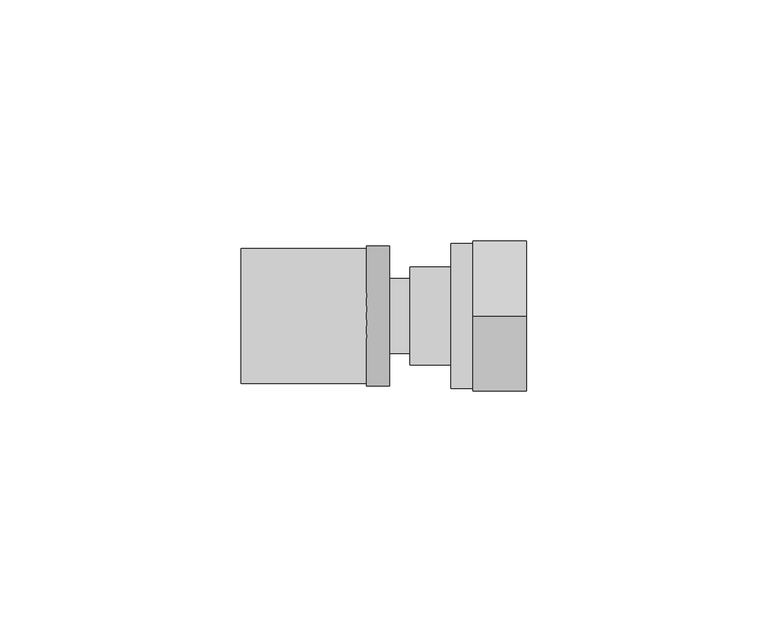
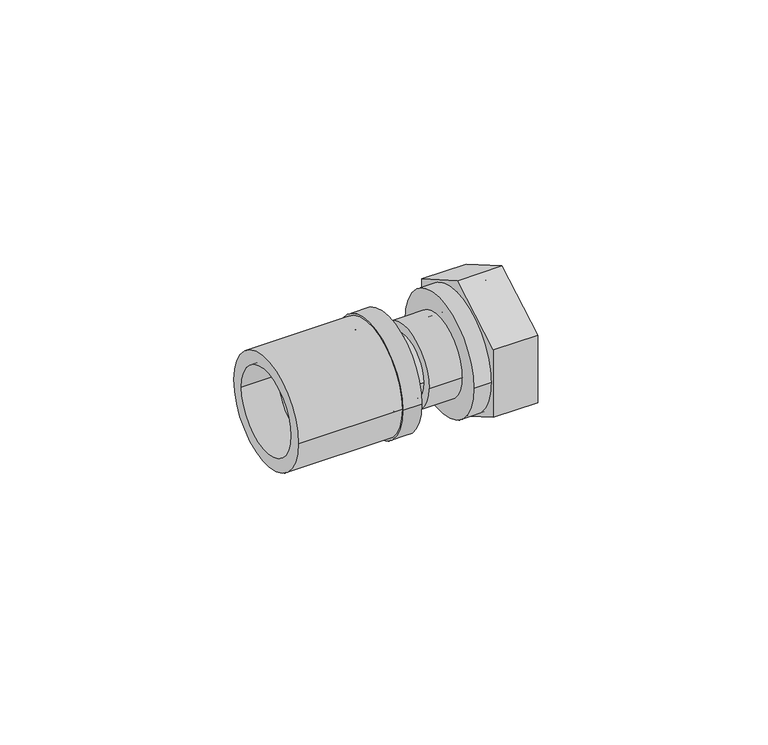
"""IFC4 building model written with IfcOpenShell, lengths in millimetres: pipe fitting geometry, FASTLOC_Adapter with union nut EX+ : FSL A union nut EX+ AT."""

import ifcopenshell
import ifcopenshell.guid

model = None  # the IFC model being written
_history = None  # IfcOwnerHistory: only IFC2X3 demands one
_inside = {}  # id of a spatial element -> (the spatial element, [elements in it])
_under = {}  # id of a project, library or spatial element -> (it, [spatial elements below it])
_declared = {}  # id of a project -> (the project, [libraries it declares])
_typed = {}  # id of a type object -> (the type object, [elements of that type])
_made_of = {}  # id of a material, layer set ... -> (it, [elements and type objects made of it])


def new_model(schema):
    """Start an empty IFC model of exactly this schema.

    Asked for "IFC4X3", IfcOpenShell would pick the latest addendum, in which some entities
    have other attributes; the version numbers below select the first issue.
    IFC2X3 requires an IfcOwnerHistory on every rooted entity: one is made here for all.
    """
    global model, _history
    if schema == "IFC4X3":
        model = ifcopenshell.file(schema_version=(4, 3, 0, 0))
    else:
        model = ifcopenshell.file(schema=schema)
    _inside.clear()
    _under.clear()
    _declared.clear()
    _typed.clear()
    _made_of.clear()
    _history = None
    if model.schema == "IFC2X3":
        org = make("IfcOrganization", Name="unknown")
        user = make(
            "IfcPersonAndOrganization",
            ThePerson=make("IfcPerson", FamilyName="unknown"),
            TheOrganization=org,
        )
        app = make(
            "IfcApplication",
            ApplicationDeveloper=org,
            Version="unknown",
            ApplicationFullName="unknown",
            ApplicationIdentifier="unknown",
        )
        _history = make(
            "IfcOwnerHistory",
            OwningUser=user,
            OwningApplication=app,
            ChangeAction="ADDED",
            CreationDate=0,
        )
    return model


def make(cls, **values):
    """One entity of the class cls with the attributes given. An attribute that is None is left unset."""
    return model.create_entity(
        cls, **{name: value for name, value in values.items() if value is not None}
    )


def rooted(cls, **values):
    """An entity with a GlobalId (a new one), such as an element, a storey or a relation."""
    return make(cls, GlobalId=ifcopenshell.guid.new(), OwnerHistory=_history, **values)


def si_unit(unit_type, name, prefix=None):
    """IfcSIUnit, for example si_unit("LENGTHUNIT", "METRE", prefix="MILLI")."""
    return make("IfcSIUnit", UnitType=unit_type, Prefix=prefix, Name=name)


def assignment(units):
    """IfcUnitAssignment: the units of a project."""
    return None if units is None else make("IfcUnitAssignment", Units=units)


def point(xyz):
    """IfcCartesianPoint."""
    return None if xyz is None else make("IfcCartesianPoint", Coordinates=xyz)


def direction(xyz):
    """IfcDirection."""
    return None if xyz is None else make("IfcDirection", DirectionRatios=xyz)


def frame(location, z_axis=None, x_axis=None):
    """IfcAxis2Placement3D, a coordinate frame: its origin and axes. An axis left out is left unset."""
    return make(
        "IfcAxis2Placement3D",
        Location=point(location),
        Axis=direction(z_axis),
        RefDirection=direction(x_axis),
    )


def frame_2d(location, x_axis=None):
    """IfcAxis2Placement2D, a coordinate frame in the plane: its origin and x axis."""
    return make(
        "IfcAxis2Placement2D", Location=point(location), RefDirection=direction(x_axis)
    )


def origin():
    """The frame at (0, 0, 0) with its axes left unset."""
    return frame((0.0, 0.0, 0.0))


def origin_2d():
    """The frame at (0, 0) in the plane with its x axis left unset."""
    return frame_2d((0.0, 0.0))


def place(relative_to, where):
    """IfcLocalPlacement: puts the frame where relative to a parent placement (None: the world)."""
    return make(
        "IfcLocalPlacement", PlacementRelTo=relative_to, RelativePlacement=where
    )


def context(
    kind, dimensions, precision=None, world=None, true_north=None, identifier=None
):
    """IfcGeometricRepresentationContext, for example the 3D "Model" context."""
    return make(
        "IfcGeometricRepresentationContext",
        ContextIdentifier=identifier,
        ContextType=kind,
        CoordinateSpaceDimension=dimensions,
        Precision=precision,
        WorldCoordinateSystem=world,
        TrueNorth=true_north,
    )


def project(units=None, contexts=None):
    """IfcProject with its units and contexts."""
    return rooted(
        "IfcProject",
        Name="project",
        RepresentationContexts=contexts,
        UnitsInContext=assignment(units),
    )


def spatial(cls, under=None, at=None, **own):
    """A site, building, storey or space (cls), placed at a placement, below another one or the project."""
    s = rooted(cls, ObjectPlacement=at, **own)
    if under is not None:
        _under.setdefault(under.id(), (under, []))[1].append(s)
    return s


def polyline(points):
    """IfcPolyline through the points."""
    return make("IfcPolyline", Points=[point(p) for p in points])


def circle_curve(where, radius):
    """IfcCircle in the frame where."""
    return make("IfcCircle", Position=where, Radius=radius)


def trimmed(basis, trim1, trim2, sense, master):
    """IfcTrimmedCurve: the piece of a basis curve between two trims."""
    return make(
        "IfcTrimmedCurve",
        BasisCurve=basis,
        Trim1=trim1,
        Trim2=trim2,
        SenseAgreement=sense,
        MasterRepresentation=master,
    )


def segment(curve, same_sense, transition):
    """IfcCompositeCurveSegment."""
    return make(
        "IfcCompositeCurveSegment",
        Transition=transition,
        SameSense=same_sense,
        ParentCurve=curve,
    )


def composite_curve(segments, self_intersect=None):
    """IfcCompositeCurve: segments joined end to end."""
    return make("IfcCompositeCurve", Segments=segments, SelfIntersect=self_intersect)


def outline(outer, holes=None, kind="AREA"):
    """IfcArbitraryClosedProfileDef: a profile drawn as a closed curve; with holes, ...WithVoids."""
    if holes is None:
        return make("IfcArbitraryClosedProfileDef", ProfileType=kind, OuterCurve=outer)
    return make(
        "IfcArbitraryProfileDefWithVoids",
        ProfileType=kind,
        OuterCurve=outer,
        InnerCurves=holes,
    )


def extrude(swept, where, along, depth):
    """IfcExtrudedAreaSolid: the profile swept, set in the frame where, extruded along a direction by depth."""
    return make(
        "IfcExtrudedAreaSolid",
        SweptArea=swept,
        Position=where,
        ExtrudedDirection=direction(along),
        Depth=depth,
    )


def shape(context_of_items, identifier, shape_type, items):
    """IfcShapeRepresentation: the items that make up one representation, for example the "Body"."""
    return make(
        "IfcShapeRepresentation",
        ContextOfItems=context_of_items,
        RepresentationIdentifier=identifier,
        RepresentationType=shape_type,
        Items=items,
    )


def source(mapping_origin, context_of_items, identifier, shape_type, items):
    """IfcRepresentationMap: a shape defined once, which mapped items show again and again."""
    return make(
        "IfcRepresentationMap",
        MappingOrigin=mapping_origin,
        MappedRepresentation=shape(context_of_items, identifier, shape_type, items),
    )


def transform(
    local_origin,
    x_axis=None,
    y_axis=None,
    z_axis=None,
    scale=None,
    scale2=None,
    scale3=None,
    uniform=True,
):
    """IfcCartesianTransformationOperator3D, or its non-uniform kind. x_axis, y_axis, z_axis: its Axis1, 2, 3."""
    if uniform:
        return make(
            "IfcCartesianTransformationOperator3D",
            Axis1=direction(x_axis),
            Axis2=direction(y_axis),
            LocalOrigin=point(local_origin),
            Scale=scale,
            Axis3=direction(z_axis),
        )
    return make(
        "IfcCartesianTransformationOperator3DnonUniform",
        Axis1=direction(x_axis),
        Axis2=direction(y_axis),
        LocalOrigin=point(local_origin),
        Scale=scale,
        Axis3=direction(z_axis),
        Scale2=scale2,
        Scale3=scale3,
    )


def mapped(mapping_source, mapping_target):
    """IfcMappedItem: shows the shape of a source again, moved by a transform."""
    return make(
        "IfcMappedItem", MappingSource=mapping_source, MappingTarget=mapping_target
    )


def made_of(thing, what):
    """Note that an element or type object is made of a material, layer set ...; save() writes the relation."""
    if what is not None:
        _made_of.setdefault(what.id(), (what, []))[1].append(thing)
    return thing


def element(
    cls,
    number,
    at=None,
    inside=None,
    cuts=None,
    type_object=None,
    material=None,
    context=None,
    identifier="Body",
    shape_type=None,
    held_by="IfcProductDefinitionShape",
    body=None,
    shapes=None,
    **own,
):
    """One element of the class cls, such as IfcWall. Its Tag is "e" and its number.

    at: its placement. inside: the storey or other place that contains it. cuts: it is an
    opening in that element (IfcRelVoidsElement). A single representation is given by context,
    identifier, shape_type and body (its items); several are given by shapes. held_by: the class
    of the entity that holds the representations. save() writes the other relations.
    """
    e = rooted(cls, Tag="e%d" % number, ObjectPlacement=at, **own)
    if body is not None:
        shapes = [shape(context, identifier, shape_type, body)]
    if shapes is not None:
        e.Representation = make(held_by, Representations=shapes)
    if inside is not None:
        _inside.setdefault(inside.id(), (inside, []))[1].append(e)
    if cuts is not None:
        rooted(
            "IfcRelVoidsElement", RelatingBuildingElement=cuts, RelatedOpeningElement=e
        )
    if type_object is not None:
        _typed.setdefault(type_object.id(), (type_object, []))[1].append(e)
    return made_of(e, material)


def aggregate(whole, parts):
    """IfcRelAggregates: a whole, such as a stair, and the parts it consists of."""
    return rooted("IfcRelAggregates", RelatingObject=whole, RelatedObjects=parts)


def save(model, path):
    """Write the relations noted so far, then the file.

    IfcRelAggregates (storeys below a building ...), IfcRelContainedInSpatialStructure (elements
    in a storey), IfcRelDefinesByType, IfcRelAssociatesMaterial and IfcRelDeclares: one each for
    every whole, place, type object, material and project.
    """
    for whole, parts in _under.values():
        aggregate(whole, parts)
    for where, things in _inside.values():
        rooted(
            "IfcRelContainedInSpatialStructure",
            RelatedElements=things,
            RelatingStructure=where,
        )
    for kind, things in _typed.values():
        rooted("IfcRelDefinesByType", RelatedObjects=things, RelatingType=kind)
    for what, things in _made_of.values():
        rooted("IfcRelAssociatesMaterial", RelatedObjects=things, RelatingMaterial=what)
    for by, libraries in _declared.values():
        rooted("IfcRelDeclares", RelatingContext=by, RelatedDefinitions=libraries)
    model.write(path)


def plane_surface(at):
    """IfcPlane: the flat surface through the origin of the frame at, square to its z axis."""
    return make("IfcPlane", Position=at)


def cylinder_surface(at, radius):
    """IfcCylindricalSurface: all points at the distance radius from the z axis of the frame at."""
    return make("IfcCylindricalSurface", Position=at, Radius=radius)


def revolved_surface(curve, axis_point, axis_direction):
    """IfcSurfaceOfRevolution: the curve turned about the line through axis_point along axis_direction."""
    return make(
        "IfcSurfaceOfRevolution",
        SweptCurve=make("IfcArbitraryOpenProfileDef", ProfileType="CURVE", Curve=curve),
        AxisPosition=make("IfcAxis1Placement", Location=point(axis_point), Axis=direction(axis_direction)),
    )


def advanced_brep(points, edges, surfaces, faces):
    """IfcAdvancedBrep: a solid bounded by faces that lie on surfaces and meet in shared edges.

    An edge is (start, end): straight between two places in points (the first is 0);
    or (start, end, curve); or (start, end, curve, False) where it runs against its curve.
    A face is (place in surfaces, loops), or (place, loops, False) where it looks against
    its surface's normal. A loop lists edges by number (the first is 1), with a minus sign
    where the edge is run from its end to its start. The first loop is the outer one.
    """
    corners = [point(p) for p in points]
    vertices = [make("IfcVertexPoint", VertexGeometry=c) for c in corners]
    made = []
    for start, end, *more in edges:
        made.append(
            make(
                "IfcEdgeCurve",
                EdgeStart=vertices[start],
                EdgeEnd=vertices[end],
                EdgeGeometry=more[0] if more else make("IfcPolyline", Points=[corners[start], corners[end]]),
                SameSense=more[1] if len(more) > 1 else True,
            )
        )
    hull = []
    for where, loops, *sense in faces:
        bounds = []
        for j, loop in enumerate(loops):
            ring = [make("IfcOrientedEdge", EdgeElement=made[abs(k) - 1], Orientation=k > 0) for k in loop]
            bounds.append(
                make(
                    "IfcFaceOuterBound" if j == 0 else "IfcFaceBound",
                    Bound=make("IfcEdgeLoop", EdgeList=ring),
                    Orientation=True,
                )
            )
        hull.append(make("IfcAdvancedFace", Bounds=bounds, FaceSurface=surfaces[where], SameSense=sense[0] if sense else True))
    return make("IfcAdvancedBrep", Outer=make("IfcClosedShell", CfsFaces=hull))


def pipe_fitting_c518d98d(model_context):
    return source(origin(), model_context, "Body", "SolidModel", [
        extrude(outline(composite_curve([segment(trimmed(circle_curve(origin_2d(), 14.0), [point((14.0, 0.0))], [point((-14.0, 0.0))], False, "CARTESIAN"), True, "CONTINUOUS"), segment(trimmed(circle_curve(origin_2d(), 14.0), [point((-14.0, 0.0))], [point((14.0, 0.0))], False, "CARTESIAN"), True, "CONTINUOUS")], self_intersect=False), holes=[composite_curve([segment(trimmed(circle_curve(origin_2d(), 10.7), [point((10.7, 0.0))], [point((-10.7, 0.0))], True, "CARTESIAN"), True, "CONTINUOUS"), segment(trimmed(circle_curve(origin_2d(), 10.7), [point((-10.7, 0.0))], [point((10.7, 0.0))], True, "CARTESIAN"), True, "CONTINUOUS")], self_intersect=False)]), frame((-35.0, 0.0, 0.0), z_axis=(1.0, 0.0, 0.0), x_axis=(0.0, 1.0, 0.0)), (0.0, 0.0, 1.0), 26.0),
        advanced_brep(
        [(-9.0, -14.5, 0.0), (-9.0, 14.5, 0.0), (-4.3, 14.5, 0.0), (-4.3, -14.5, 0.0), (-26.0, -11.85, 0.0), (-26.0, 11.85, 0.0), (-9.0, 11.85, 0.0), (-9.0, -11.85, 0.0), (-4.3, -10.15, 0.0), (-4.3, 10.15, 0.0), (-26.0, 10.15, 0.0), (-26.0, -10.15, 0.0)],
        [
            (0, 1, circle_curve(frame((-9.0, 0.0, 0.0), z_axis=(1.0, 0.0, 0.0), x_axis=(0.0, 1.0, 0.0)), 14.5)),
            (1, 2),
            (2, 3, circle_curve(frame((-4.3, 0.0, 0.0), z_axis=(-1.0, 0.0, 0.0), x_axis=(0.0, 1.0, 0.0)), 14.5)),
            (3, 0),
            (4, 5, circle_curve(frame((-26.0, 0.0, 0.0), z_axis=(1.0, 0.0, 0.0), x_axis=(0.0, 1.0, 0.0)), 11.85)),
            (5, 6),
            (6, 7, circle_curve(frame((-9.0, 0.0, 0.0), z_axis=(-1.0, 0.0, 0.0), x_axis=(0.0, 1.0, 0.0)), 11.85)),
            (7, 4),
            (8, 9, circle_curve(frame((-4.3, 0.0, 0.0), z_axis=(1.0, 0.0, 0.0), x_axis=(0.0, 1.0, 0.0)), 10.15)),
            (9, 10),
            (10, 11, circle_curve(frame((-26.0, 0.0, 0.0), z_axis=(-1.0, 0.0, 0.0), x_axis=(0.0, 1.0, 0.0)), 10.15)),
            (11, 8),
            (1, 0, circle_curve(frame((-9.0, 0.0, 0.0), z_axis=(1.0, 0.0, 0.0), x_axis=(0.0, -1.0, 0.0)), 14.5)),
            (3, 2, circle_curve(frame((-4.3, 0.0, 0.0), z_axis=(-1.0, 0.0, 0.0), x_axis=(0.0, -1.0, 0.0)), 14.5)),
            (6, 7, circle_curve(frame((-9.0, 0.0, 0.0), z_axis=(1.0, 0.0, 0.0), x_axis=(0.0, -1.0, 0.0)), 11.85)),
            (5, 4, circle_curve(frame((-26.0, 0.0, 0.0), z_axis=(1.0, 0.0, 0.0), x_axis=(0.0, -1.0, 0.0)), 11.85)),
            (10, 11, circle_curve(frame((-26.0, 0.0, 0.0), z_axis=(1.0, 0.0, 0.0), x_axis=(0.0, -1.0, 0.0)), 10.15)),
            (9, 8, circle_curve(frame((-4.3, 0.0, 0.0), z_axis=(1.0, 0.0, 0.0), x_axis=(0.0, -1.0, 0.0)), 10.15)),
        ],
        [
            cylinder_surface(frame((-4.3, 0.0, 0.0), z_axis=(-1.0, 0.0, 0.0), x_axis=(0.0, 1.0, 0.0)), 14.5),
            cylinder_surface(frame((-4.3, 0.0, 0.0), z_axis=(-1.0, 0.0, 0.0), x_axis=(0.0, 1.0, 0.0)), 11.85),
            revolved_surface(polyline([(-26.0, 10.15, 0.0), (-4.3, 10.15, 0.0)]), (-4.3, 0.0, 0.0), (-1.0, 0.0, 0.0)),
            cylinder_surface(frame((-4.3, 0.0, 0.0), z_axis=(-1.0, 0.0, 0.0), x_axis=(0.0, -1.0, 0.0)), 14.5),
            plane_surface(frame((-9.0, 0.0, 0.0), z_axis=(-1.0, 0.0, 0.0), x_axis=(0.0, -1.0, 0.0))),
            cylinder_surface(frame((-4.3, 0.0, 0.0), z_axis=(-1.0, 0.0, 0.0), x_axis=(0.0, -1.0, 0.0)), 11.85),
            plane_surface(frame((-26.0, 0.0, 0.0), z_axis=(-1.0, 0.0, 0.0), x_axis=(0.0, -1.0, 0.0))),
            revolved_surface(polyline([(-26.0, -10.15, 0.0), (-4.3, -10.15, 0.0)]), (-4.3, 0.0, 0.0), (-1.0, 0.0, 0.0)),
            plane_surface(frame((-4.3, 0.0, 0.0), z_axis=(1.0, 0.0, 0.0), x_axis=(0.0, -1.0, 0.0))),
        ],
        [
            (0, [[1, 2, 3, 4]]),
            (1, [[5, 6, 7, 8]]),
            (2, [[9, 10, 11, 12]]),
            (3, [[13, -4, 14, -2]]),
            (4, [[-13, -1], [15, -7]]),
            (5, [[16, -8, -15, -6]]),
            (6, [[-16, -5], [17, -11]]),
            (7, [[18, -12, -17, -10]]),
            (8, [[-14, -3], [-18, -9]]),
        ],
    ),
        advanced_brep(
        [(-9.0, 7.75, 0.0), (-9.0, -7.75, 0.0), (-26.5, -7.75, 0.0), (-26.5, 7.75, 0.0), (-6.3, 8.8, 0.0), (-6.3, -8.8, 0.0), (-9.0, -8.8, 0.0), (-9.0, 8.8, 0.0), (0.0, 7.75, 0.0), (0.0, -7.75, 0.0), (-6.3, -7.75, 0.0), (-6.3, 7.75, 0.0), (-26.5, 5.75, 0.0), (-26.5, -5.75, 0.0), (0.0, -5.75, 0.0), (0.0, 5.75, 0.0)],
        [
            (0, 1, circle_curve(frame((-9.0, 0.0, 0.0), z_axis=(-1.0, 0.0, 0.0), x_axis=(0.0, -1.0, 0.0)), 7.75)),
            (1, 2),
            (2, 3, circle_curve(frame((-26.5, 0.0, 0.0), z_axis=(1.0, 0.0, 0.0), x_axis=(0.0, -1.0, 0.0)), 7.75)),
            (3, 0),
            (4, 5, circle_curve(frame((-6.3, 0.0, 0.0), z_axis=(-1.0, 0.0, 0.0), x_axis=(0.0, -1.0, 0.0)), 8.8)),
            (5, 6),
            (6, 7, circle_curve(frame((-9.0, 0.0, 0.0), z_axis=(1.0, 0.0, 0.0), x_axis=(0.0, -1.0, 0.0)), 8.8)),
            (7, 4),
            (8, 9, circle_curve(frame((0.0, 0.0, 0.0), z_axis=(-1.0, 0.0, 0.0), x_axis=(0.0, -1.0, 0.0)), 7.75)),
            (9, 10),
            (10, 11, circle_curve(frame((-6.3, 0.0, 0.0), z_axis=(1.0, 0.0, 0.0), x_axis=(0.0, -1.0, 0.0)), 7.75)),
            (11, 8),
            (12, 13, circle_curve(frame((-26.5, 0.0, 0.0), z_axis=(-1.0, 0.0, 0.0), x_axis=(0.0, -1.0, 0.0)), 5.75)),
            (13, 14),
            (14, 15, circle_curve(frame((0.0, 0.0, 0.0), z_axis=(1.0, 0.0, 0.0), x_axis=(0.0, -1.0, 0.0)), 5.75)),
            (15, 12),
            (2, 3, circle_curve(frame((-26.5, 0.0, 0.0), z_axis=(-1.0, 0.0, 0.0), x_axis=(0.0, 1.0, 0.0)), 7.75)),
            (12, 13, circle_curve(frame((-26.5, 0.0, 0.0), z_axis=(1.0, 0.0, 0.0), x_axis=(0.0, 1.0, 0.0)), 5.75)),
            (1, 0, circle_curve(frame((-9.0, 0.0, 0.0), z_axis=(-1.0, 0.0, 0.0), x_axis=(0.0, 1.0, 0.0)), 7.75)),
            (6, 7, circle_curve(frame((-9.0, 0.0, 0.0), z_axis=(-1.0, 0.0, 0.0), x_axis=(0.0, 1.0, 0.0)), 8.8)),
            (5, 4, circle_curve(frame((-6.3, 0.0, 0.0), z_axis=(-1.0, 0.0, 0.0), x_axis=(0.0, 1.0, 0.0)), 8.8)),
            (10, 11, circle_curve(frame((-6.3, 0.0, 0.0), z_axis=(-1.0, 0.0, 0.0), x_axis=(0.0, 1.0, 0.0)), 7.75)),
            (9, 8, circle_curve(frame((0.0, 0.0, 0.0), z_axis=(-1.0, 0.0, 0.0), x_axis=(0.0, 1.0, 0.0)), 7.75)),
            (14, 15, circle_curve(frame((0.0, 0.0, 0.0), z_axis=(-1.0, 0.0, 0.0), x_axis=(0.0, 1.0, 0.0)), 5.75)),
        ],
        [
            cylinder_surface(frame((0.0, 0.0, 0.0), z_axis=(1.0, 0.0, 0.0), x_axis=(0.0, -1.0, 0.0)), 7.75),
            cylinder_surface(frame((0.0, 0.0, 0.0), z_axis=(1.0, 0.0, 0.0), x_axis=(0.0, -1.0, 0.0)), 8.8),
            revolved_surface(polyline([(0.0, -5.75, 0.0), (-26.5, -5.75, 0.0)]), (0.0, 0.0, 0.0), (1.0, 0.0, 0.0)),
            plane_surface(frame((-26.5, 0.0, 0.0), z_axis=(-1.0, 0.0, 0.0), x_axis=(0.0, 1.0, 0.0))),
            cylinder_surface(frame((0.0, 0.0, 0.0), z_axis=(1.0, 0.0, 0.0), x_axis=(0.0, 1.0, 0.0)), 7.75),
            plane_surface(frame((-9.0, 0.0, 0.0), z_axis=(-1.0, 0.0, 0.0), x_axis=(0.0, 1.0, 0.0))),
            cylinder_surface(frame((0.0, 0.0, 0.0), z_axis=(1.0, 0.0, 0.0), x_axis=(0.0, 1.0, 0.0)), 8.8),
            plane_surface(frame((-6.3, 0.0, 0.0), z_axis=(1.0, 0.0, 0.0), x_axis=(0.0, 1.0, 0.0))),
            plane_surface(frame((0.0, 0.0, 0.0), z_axis=(1.0, 0.0, 0.0), x_axis=(0.0, 1.0, 0.0))),
            revolved_surface(polyline([(0.0, 5.75, 0.0), (-26.5, 5.75, 0.0)]), (0.0, 0.0, 0.0), (1.0, 0.0, 0.0)),
        ],
        [
            (0, [[1, 2, 3, 4]]),
            (1, [[5, 6, 7, 8]]),
            (0, [[9, 10, 11, 12]]),
            (2, [[13, 14, 15, 16]]),
            (3, [[17, -3], [18, -13]]),
            (4, [[19, -4, -17, -2]]),
            (5, [[20, -7], [-19, -1]]),
            (6, [[21, -8, -20, -6]]),
            (7, [[-21, -5], [22, -11]]),
            (4, [[23, -12, -22, -10]]),
            (8, [[-23, -9], [24, -15]]),
            (9, [[-18, -16, -24, -14]]),
        ],
    ),
        extrude(outline(polyline([(0.0, -17.8978583), (-15.5, -8.9489292), (-15.5, 8.9489292), (0.0, 17.8978583), (15.5, 8.9489292), (15.5, -8.9489292), (0.0, -17.8978583)]), holes=[composite_curve([segment(trimmed(circle_curve(origin_2d(), 12.0), [point((-12.0, 0.0))], [point((12.0, 0.0))], True, "CARTESIAN"), True, "CONTINUOUS"), segment(trimmed(circle_curve(origin_2d(), 12.0), [point((12.0, 0.0))], [point((-12.0, 0.0))], True, "CARTESIAN"), True, "CONTINUOUS")], self_intersect=False)]), frame((13.0, 0.0, 0.0), z_axis=(1.0, 0.0, 0.0), x_axis=(0.0, 1.0, 0.0)), (0.0, 0.0, 1.0), 11.1),
        advanced_brep(
        [(24.1, 15.0, 0.0), (24.1, -15.0, 0.0), (8.5, -15.0, 0.0), (8.5, 15.0, 0.0), (12.1, 12.0, 0.0), (12.1, -12.0, 0.0), (24.1, -12.0, 0.0), (24.1, 12.0, 0.0), (8.5, 8.4, 0.0), (8.5, -8.4, 0.0), (12.1, -8.4, 0.0), (12.1, 8.4, 0.0)],
        [
            (0, 1, circle_curve(frame((24.1, 0.0, 0.0), z_axis=(-1.0, 0.0, 0.0), x_axis=(0.0, -1.0, 0.0)), 15.0)),
            (1, 2),
            (2, 3, circle_curve(frame((8.5, 0.0, 0.0), z_axis=(1.0, 0.0, 0.0), x_axis=(0.0, -1.0, 0.0)), 15.0)),
            (3, 0),
            (4, 5, circle_curve(frame((12.1, 0.0, 0.0), z_axis=(-1.0, 0.0, 0.0), x_axis=(0.0, -1.0, 0.0)), 12.0)),
            (5, 6),
            (6, 7, circle_curve(frame((24.1, 0.0, 0.0), z_axis=(1.0, 0.0, 0.0), x_axis=(0.0, -1.0, 0.0)), 12.0)),
            (7, 4),
            (8, 9, circle_curve(frame((8.5, 0.0, 0.0), z_axis=(-1.0, 0.0, 0.0), x_axis=(0.0, -1.0, 0.0)), 8.4)),
            (9, 10),
            (10, 11, circle_curve(frame((12.1, 0.0, 0.0), z_axis=(1.0, 0.0, 0.0), x_axis=(0.0, -1.0, 0.0)), 8.4)),
            (11, 8),
            (1, 0, circle_curve(frame((24.1, 0.0, 0.0), z_axis=(-1.0, 0.0, 0.0), x_axis=(0.0, 1.0, 0.0)), 15.0)),
            (3, 2, circle_curve(frame((8.5, 0.0, 0.0), z_axis=(1.0, 0.0, 0.0), x_axis=(0.0, 1.0, 0.0)), 15.0)),
            (6, 7, circle_curve(frame((24.1, 0.0, 0.0), z_axis=(-1.0, 0.0, 0.0), x_axis=(0.0, 1.0, 0.0)), 12.0)),
            (5, 4, circle_curve(frame((12.1, 0.0, 0.0), z_axis=(-1.0, 0.0, 0.0), x_axis=(0.0, 1.0, 0.0)), 12.0)),
            (10, 11, circle_curve(frame((12.1, 0.0, 0.0), z_axis=(-1.0, 0.0, 0.0), x_axis=(0.0, 1.0, 0.0)), 8.4)),
            (9, 8, circle_curve(frame((8.5, 0.0, 0.0), z_axis=(-1.0, 0.0, 0.0), x_axis=(0.0, 1.0, 0.0)), 8.4)),
        ],
        [
            cylinder_surface(frame((0.0, 0.0, 0.0), z_axis=(1.0, 0.0, 0.0), x_axis=(0.0, -1.0, 0.0)), 15.0),
            revolved_surface(polyline([(24.1, -12.0, 0.0), (12.1, -12.0, 0.0)]), (0.0, 0.0, 0.0), (1.0, 0.0, 0.0)),
            revolved_surface(polyline([(12.1, -8.4, 0.0), (8.5, -8.4, 0.0)]), (0.0, 0.0, 0.0), (1.0, 0.0, 0.0)),
            cylinder_surface(frame((0.0, 0.0, 0.0), z_axis=(1.0, 0.0, 0.0), x_axis=(0.0, 1.0, 0.0)), 15.0),
            plane_surface(frame((24.1, 0.0, 0.0), z_axis=(1.0, 0.0, 0.0), x_axis=(0.0, 1.0, 0.0))),
            revolved_surface(polyline([(24.1, 12.0, 0.0), (12.1, 12.0, 0.0)]), (0.0, 0.0, 0.0), (1.0, 0.0, 0.0)),
            plane_surface(frame((12.1, 0.0, 0.0), z_axis=(1.0, 0.0, 0.0), x_axis=(0.0, 1.0, 0.0))),
            revolved_surface(polyline([(12.1, 8.4, 0.0), (8.5, 8.4, 0.0)]), (0.0, 0.0, 0.0), (1.0, 0.0, 0.0)),
            plane_surface(frame((8.5, 0.0, 0.0), z_axis=(-1.0, 0.0, 0.0), x_axis=(0.0, 1.0, 0.0))),
        ],
        [
            (0, [[1, 2, 3, 4]]),
            (1, [[5, 6, 7, 8]]),
            (2, [[9, 10, 11, 12]]),
            (3, [[13, -4, 14, -2]]),
            (4, [[-13, -1], [15, -7]]),
            (5, [[16, -8, -15, -6]]),
            (6, [[-16, -5], [17, -11]]),
            (7, [[18, -12, -17, -10]]),
            (8, [[-14, -3], [-18, -9]]),
        ],
    ),
        advanced_brep(
        [(12.0, 10.175, 0.0), (12.0, -10.175, 0.0), (0.0, -10.175, 0.0), (0.0, 10.175, 0.0), (13.95, 14.15, 0.0), (13.95, -14.15, 0.0), (12.0, -14.15, 0.0), (12.0, 14.15, 0.0), (1.4730817, 8.15, 0.0), (1.4730817, -8.15, 0.0), (13.95, -8.15, 0.0), (13.95, 8.15, 0.0), (0.0, 5.9764556, 0.0), (0.0, -5.9764556, 0.0), (1.4730817, -5.9764556, 0.0), (1.4730817, 5.9764556, 0.0)],
        [
            (0, 1, circle_curve(frame((12.0, 0.0, 0.0), z_axis=(-1.0, 0.0, 0.0), x_axis=(0.0, -1.0, 0.0)), 10.175)),
            (1, 2),
            (2, 3, circle_curve(frame((0.0, 0.0, 0.0), z_axis=(1.0, 0.0, 0.0), x_axis=(0.0, -1.0, 0.0)), 10.175)),
            (3, 0),
            (4, 5, circle_curve(frame((13.95, 0.0, 0.0), z_axis=(-1.0, 0.0, 0.0), x_axis=(0.0, -1.0, 0.0)), 14.15)),
            (5, 6),
            (6, 7, circle_curve(frame((12.0, 0.0, 0.0), z_axis=(1.0, 0.0, 0.0), x_axis=(0.0, -1.0, 0.0)), 14.15)),
            (7, 4),
            (8, 9, circle_curve(frame((1.4730817, 0.0, 0.0), z_axis=(-1.0, 0.0, 0.0), x_axis=(0.0, -1.0, 0.0)), 8.15)),
            (9, 10),
            (10, 11, circle_curve(frame((13.95, 0.0, 0.0), z_axis=(1.0, 0.0, 0.0), x_axis=(0.0, -1.0, 0.0)), 8.15)),
            (11, 8),
            (12, 13, circle_curve(frame((0.0, 0.0, 0.0), z_axis=(-1.0, 0.0, 0.0), x_axis=(0.0, -1.0, 0.0)), 5.9764556)),
            (13, 14),
            (14, 15, circle_curve(frame((1.4730817, 0.0, 0.0), z_axis=(1.0, 0.0, 0.0), x_axis=(0.0, -1.0, 0.0)), 5.9764556)),
            (15, 12),
            (2, 3, circle_curve(frame((0.0, 0.0, 0.0), z_axis=(-1.0, 0.0, 0.0), x_axis=(0.0, 1.0, 0.0)), 10.175)),
            (12, 13, circle_curve(frame((0.0, 0.0, 0.0), z_axis=(1.0, 0.0, 0.0), x_axis=(0.0, 1.0, 0.0)), 5.9764556)),
            (1, 0, circle_curve(frame((12.0, 0.0, 0.0), z_axis=(-1.0, 0.0, 0.0), x_axis=(0.0, 1.0, 0.0)), 10.175)),
            (6, 7, circle_curve(frame((12.0, 0.0, 0.0), z_axis=(-1.0, 0.0, 0.0), x_axis=(0.0, 1.0, 0.0)), 14.15)),
            (5, 4, circle_curve(frame((13.95, 0.0, 0.0), z_axis=(-1.0, 0.0, 0.0), x_axis=(0.0, 1.0, 0.0)), 14.15)),
            (10, 11, circle_curve(frame((13.95, 0.0, 0.0), z_axis=(-1.0, 0.0, 0.0), x_axis=(0.0, 1.0, 0.0)), 8.15)),
            (9, 8, circle_curve(frame((1.4730817, 0.0, 0.0), z_axis=(-1.0, 0.0, 0.0), x_axis=(0.0, 1.0, 0.0)), 8.15)),
            (14, 15, circle_curve(frame((1.4730817, 0.0, 0.0), z_axis=(-1.0, 0.0, 0.0), x_axis=(0.0, 1.0, 0.0)), 5.9764556)),
        ],
        [
            cylinder_surface(frame((0.0, 0.0, 0.0), z_axis=(1.0, 0.0, 0.0), x_axis=(0.0, -1.0, 0.0)), 10.175),
            cylinder_surface(frame((0.0, 0.0, 0.0), z_axis=(1.0, 0.0, 0.0), x_axis=(0.0, -1.0, 0.0)), 14.15),
            revolved_surface(polyline([(13.95, -8.15, 0.0), (1.4730817, -8.15, 0.0)]), (0.0, 0.0, 0.0), (1.0, 0.0, 0.0)),
            revolved_surface(polyline([(1.4730817, -5.9764556, 0.0), (0.0, -5.9764556, 0.0)]), (0.0, 0.0, 0.0), (1.0, 0.0, 0.0)),
            plane_surface(frame((0.0, 0.0, 0.0), z_axis=(-1.0, 0.0, 0.0), x_axis=(0.0, 1.0, 0.0))),
            cylinder_surface(frame((0.0, 0.0, 0.0), z_axis=(1.0, 0.0, 0.0), x_axis=(0.0, 1.0, 0.0)), 10.175),
            plane_surface(frame((12.0, 0.0, 0.0), z_axis=(-1.0, 0.0, 0.0), x_axis=(0.0, 1.0, 0.0))),
            cylinder_surface(frame((0.0, 0.0, 0.0), z_axis=(1.0, 0.0, 0.0), x_axis=(0.0, 1.0, 0.0)), 14.15),
            plane_surface(frame((13.95, 0.0, 0.0), z_axis=(1.0, 0.0, 0.0), x_axis=(0.0, 1.0, 0.0))),
            revolved_surface(polyline([(13.95, 8.15, 0.0), (1.4730817, 8.15, 0.0)]), (0.0, 0.0, 0.0), (1.0, 0.0, 0.0)),
            plane_surface(frame((1.4730817, 0.0, 0.0), z_axis=(1.0, 0.0, 0.0), x_axis=(0.0, 1.0, 0.0))),
            revolved_surface(polyline([(1.4730817, 5.9764556, 0.0), (0.0, 5.9764556, 0.0)]), (0.0, 0.0, 0.0), (1.0, 0.0, 0.0)),
        ],
        [
            (0, [[1, 2, 3, 4]]),
            (1, [[5, 6, 7, 8]]),
            (2, [[9, 10, 11, 12]]),
            (3, [[13, 14, 15, 16]]),
            (4, [[17, -3], [18, -13]]),
            (5, [[19, -4, -17, -2]]),
            (6, [[20, -7], [-19, -1]]),
            (7, [[21, -8, -20, -6]]),
            (8, [[-21, -5], [22, -11]]),
            (9, [[23, -12, -22, -10]]),
            (10, [[-23, -9], [24, -15]]),
            (11, [[-18, -16, -24, -14]]),
        ],
    ),
    ])


if __name__ == "__main__":
    model = new_model("IFC4")
    model_context = context("Model", 3, world=origin())
    ifc_project = project(units=[si_unit("LENGTHUNIT", "METRE", prefix="MILLI")], contexts=[model_context])
    site = spatial("IfcSite", under=ifc_project)
    building = spatial("IfcBuilding", under=site)
    placement = place(None, origin())
    pipe_fitting_shape = pipe_fitting_c518d98d(model_context)
    element("IfcPipeFitting", 1, ObjectType="FASTLOC_Adapter with union nut EX+ : FSL A union nut EX+ AT", at=placement, inside=building, context=model_context, shape_type="MappedRepresentation", body=[
        mapped(pipe_fitting_shape, transform((0.0, 0.0, 0.0), x_axis=(1.0, 0.0, 0.0), y_axis=(0.0, 1.0, 0.0), z_axis=(0.0, 0.0, 1.0))),
    ])
    save(model, "model.ifc")
